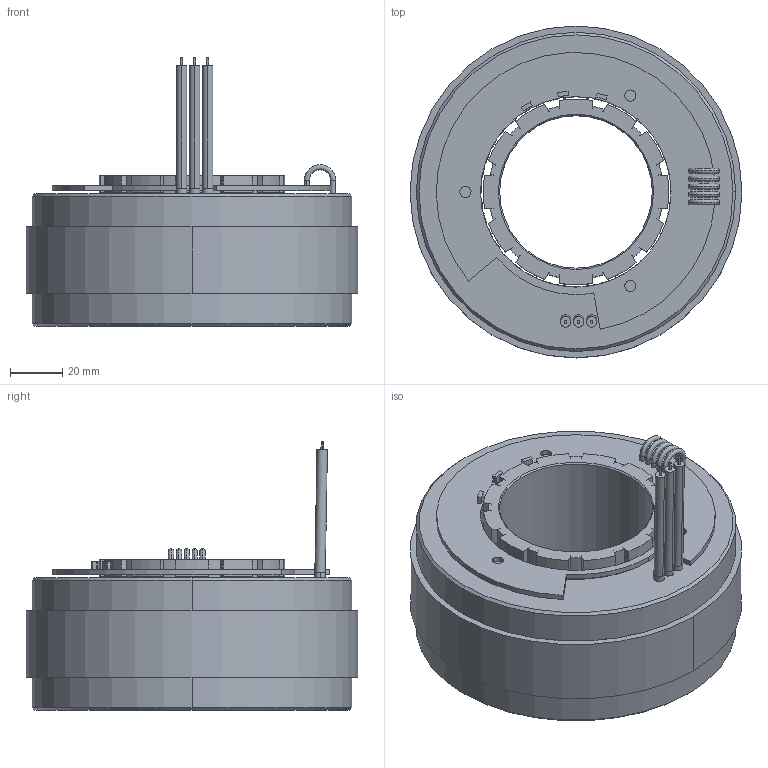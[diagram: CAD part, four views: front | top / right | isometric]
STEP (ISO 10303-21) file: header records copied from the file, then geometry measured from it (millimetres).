
FILE_DESCRIPTION((''),'2;1');
FILE_NAME('K127100-XX2','2015-04-29T',('ALA4428'),(''),'PRO/ENGINEER BY PARAMETRIC TECHNOLOGY CORPORATION, 2007390','PRO/ENGINEER BY PARAMETRIC TECHNOLOGY CORPORATION, 2007390','');
FILE_SCHEMA(('CONFIG_CONTROL_DESIGN'));
Length unit declared in the file: inch
Products named in the file (1): K127100-XX2
Bounding box: 127 x 127 x 102.89 mm (x, y, z)
Volume: 340817.5 mm3; surface area: 146682.7 mm2
Topology: 2 solids, 2 shells, 900 faces, 2505 edges, 1614 vertices
Faces by surface type: plane 529, cylinder 343, torus 16, cone 12
Entity records: 29013 total; most frequent: DIRECTION 5223, CARTESIAN_POINT 5019, ORIENTED_EDGE 5010, EDGE_CURVE 2505, AXIS2_PLACEMENT_3D 1818, VERTEX_POINT 1614, VECTOR 1587, LINE 1587
